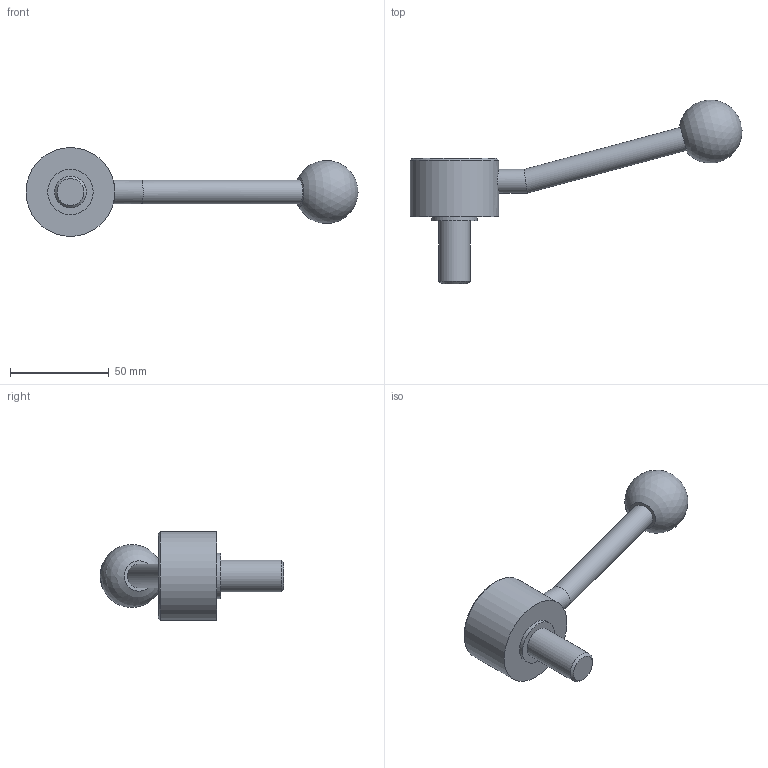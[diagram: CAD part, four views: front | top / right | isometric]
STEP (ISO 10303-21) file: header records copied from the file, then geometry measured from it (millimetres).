
FILE_DESCRIPTION( ( 'STEP AP203' ), '1' );
FILE_NAME( 'C:/Temp/Ganter_Step_05_03_2020/data/2_1/gn_125/gn_125_ms/gn_125_ms_e/Flat Adjustable Lever GN 125-45-M16-32-E.stp', '2020-03-05T11:01:02', ( 'License CC BY-ND 4.0' ), ( 'CADENAS' ), ' ', 'PARTsolutions', ' ' );
FILE_SCHEMA( ( 'CONFIG_CONTROL_DESIGN' ) );
Length unit declared in the file: millimetre
Products named in the file (1): _Flat Adjustable Lever GN 125-45-M16-32-E
Bounding box: 168.04 x 93.06 x 45 mm (x, y, z)
Volume: 81761.4 mm3; surface area: 15631.2 mm2
Topology: 1 solids, 1 shells, 15 faces, 25 edges, 16 vertices
Faces by surface type: cylinder 6, plane 6, cone 2, sphere 1
Full cylindrical faces by diameter (mm): 12 x2, 16 x1, 23 x1, 32 x1, 45 x1
Entity records: 422 total; most frequent: CARTESIAN_POINT 128, DIRECTION 58, AXIS2_PLACEMENT_3D 29, EDGE_LOOP 28, ORIENTED_EDGE 28, FACE_OUTER_BOUND 21, ADVANCED_FACE 15, VERTEX_POINT 15
